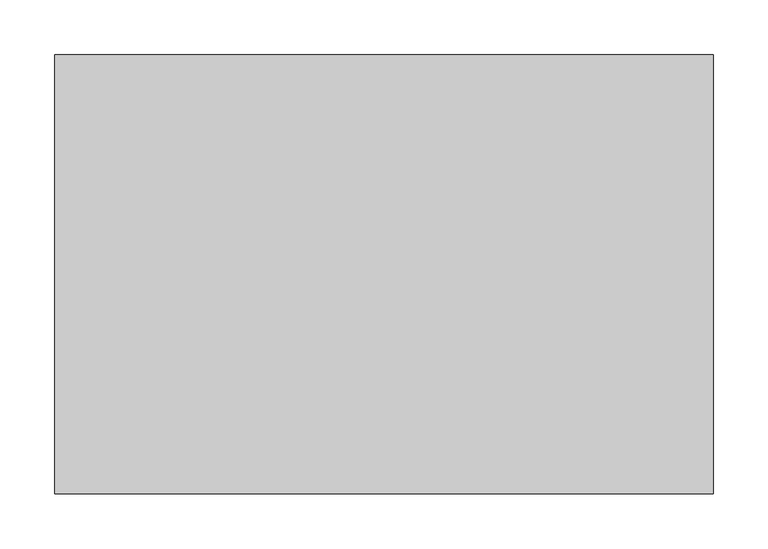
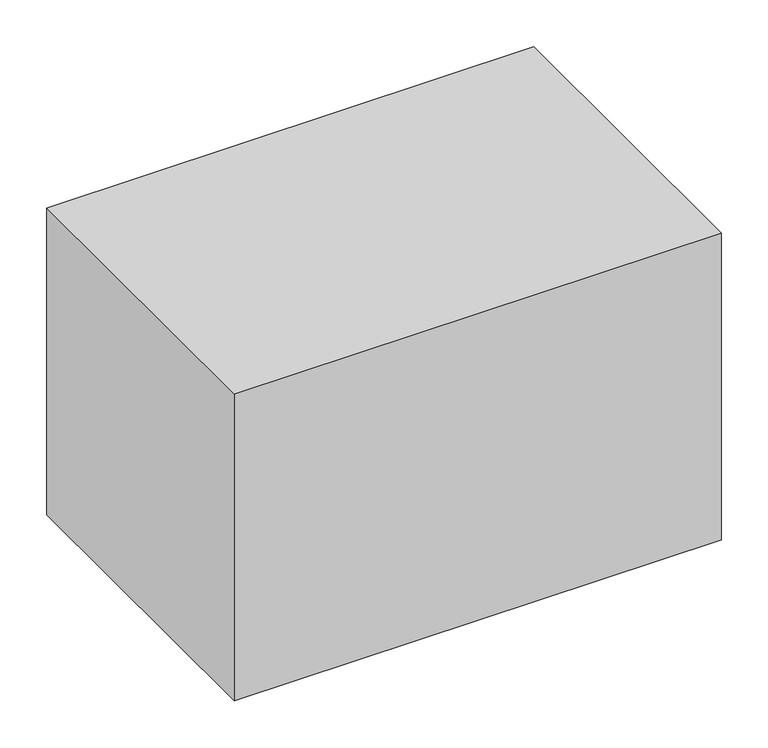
"""IFC4 building model written with IfcOpenShell, lengths in millimetres: proxy geometry, Movél17 : Movél."""

from ifc_helpers import new_model, si_unit, frame, origin, place, context, project, spatial, polyline, outline, extrude, source, transform, mapped, element, save


def generic_models_0041a0b1(model_context):
    return source(origin(), model_context, "Body", "SweptSolid", [
        extrude(outline(polyline([(24488.6646378, 16442.1029258), (24488.6646378, 16042.1029258), (23888.6646378, 16042.1029258), (23888.6646378, 16442.1029258), (24488.6646378, 16442.1029258)])), frame((0.0, 0.0, 400.0), z_axis=(0.0, 0.0, 1.0), x_axis=(1.0, 0.0, 0.0)), (0.0, 0.0, 1.0), 400.0),
    ])


if __name__ == "__main__":
    model = new_model("IFC4")
    model_context = context("Model", 3, world=origin())
    ifc_project = project(units=[si_unit("LENGTHUNIT", "METRE", prefix="MILLI")], contexts=[model_context])
    site = spatial("IfcSite", under=ifc_project)
    building = spatial("IfcBuilding", under=site)
    placement = place(None, origin())
    generic_models_shape = generic_models_0041a0b1(model_context)
    element("IfcBuildingElementProxy", 1, Name="Movél17 : Movél", ObjectType="Movél17 : Movél", at=placement, inside=building, context=model_context, shape_type="MappedRepresentation", body=[
        mapped(generic_models_shape, transform((0.0, 0.0, 0.0), x_axis=(1.0, 0.0, 0.0), y_axis=(0.0, 1.0, 0.0), z_axis=(0.0, 0.0, 1.0))),
    ])
    save(model, "model.ifc")
